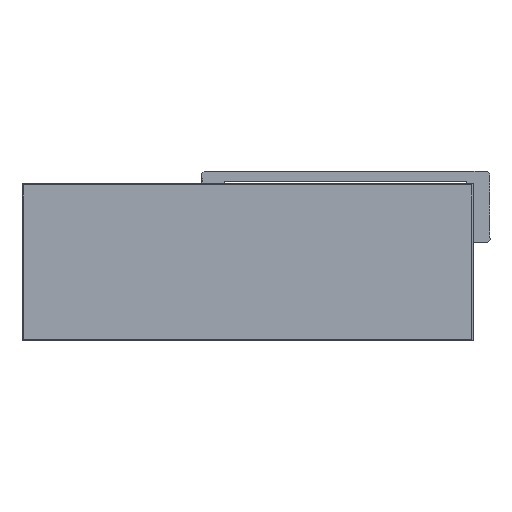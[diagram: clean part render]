
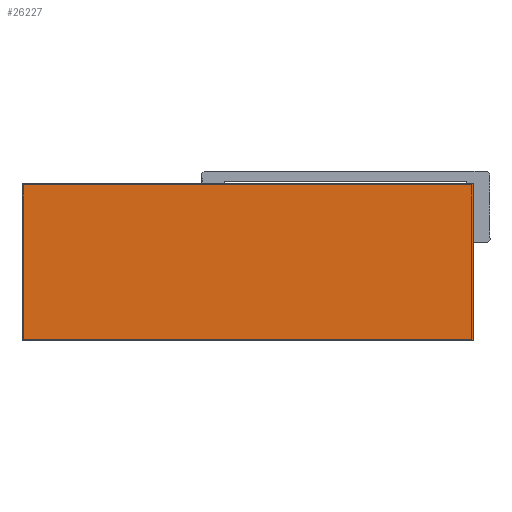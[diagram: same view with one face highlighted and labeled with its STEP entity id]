
A CAD part, top view. The second image highlights one B-rep face of the part: STEP entity #26227.
In plain terms, the highlighted planar face has unit normal (0, 0, 1).
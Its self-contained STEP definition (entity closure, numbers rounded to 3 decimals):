
#264 = AXIS2_PLACEMENT_3D ( 'NONE', #24833, #1585, #17224 ) ;
#459 = VECTOR ( 'NONE', #14248, 1000. ) ;
#595 = LINE ( 'NONE', #20208, #625 ) ;
#625 = VECTOR ( 'NONE', #20181, 1000. ) ;
#1585 = DIRECTION ( 'NONE',  ( 0., 0., -1. ) ) ;
#2285 = ORIENTED_EDGE ( 'NONE', *, *, #29549, .T. ) ;
#2332 = CARTESIAN_POINT ( 'NONE',  ( 313., 109., 70. ) ) ;
#4075 = VERTEX_POINT ( 'NONE', #20498 ) ;
#6234 = ORIENTED_EDGE ( 'NONE', *, *, #29770, .T. ) ;
#6916 = ORIENTED_EDGE ( 'NONE', *, *, #26914, .T. ) ;
#8730 = EDGE_LOOP ( 'NONE', ( #6916, #31924, #2285, #6234 ) ) ;
#8753 = VERTEX_POINT ( 'NONE', #2332 ) ;
#10754 = VERTEX_POINT ( 'NONE', #13856 ) ;
#13756 = FACE_OUTER_BOUND ( 'NONE', #8730, .T. ) ;
#13856 = CARTESIAN_POINT ( 'NONE',  ( 0., 0., 70. ) ) ;
#14248 = DIRECTION ( 'NONE',  ( 0., 1., 0. ) ) ;
#14352 = LINE ( 'NONE', #32813, #459 ) ;
#14507 = EDGE_CURVE ( 'NONE', #10754, #25572, #595, .T. ) ;
#15261 = CARTESIAN_POINT ( 'NONE',  ( 0., 109., 70. ) ) ;
#15949 = LINE ( 'NONE', #15261, #22176 ) ;
#17224 = DIRECTION ( 'NONE',  ( -1., 0., 0. ) ) ;
#19895 = LINE ( 'NONE', #28139, #22385 ) ;
#20181 = DIRECTION ( 'NONE',  ( 1., 0., 0. ) ) ;
#20208 = CARTESIAN_POINT ( 'NONE',  ( 0., 0., 70. ) ) ;
#20498 = CARTESIAN_POINT ( 'NONE',  ( 0., 109., 70. ) ) ;
#22176 = VECTOR ( 'NONE', #25948, 1000. ) ;
#22385 = VECTOR ( 'NONE', #33374, 1000. ) ;
#24833 = CARTESIAN_POINT ( 'NONE',  ( 0., 0., 70. ) ) ;
#25572 = VERTEX_POINT ( 'NONE', #26985 ) ;
#25948 = DIRECTION ( 'NONE',  ( -1., 0., 0. ) ) ;
#26227 = ADVANCED_FACE ( 'NONE', ( #13756 ), #30454, .F. ) ;
#26914 = EDGE_CURVE ( 'NONE', #4075, #10754, #19895, .T. ) ;
#26985 = CARTESIAN_POINT ( 'NONE',  ( 313., 0., 70. ) ) ;
#28139 = CARTESIAN_POINT ( 'NONE',  ( 0., 0., 70. ) ) ;
#29549 = EDGE_CURVE ( 'NONE', #25572, #8753, #14352, .T. ) ;
#29770 = EDGE_CURVE ( 'NONE', #8753, #4075, #15949, .T. ) ;
#30454 = PLANE ( 'NONE',  #264 ) ;
#31924 = ORIENTED_EDGE ( 'NONE', *, *, #14507, .T. ) ;
#32813 = CARTESIAN_POINT ( 'NONE',  ( 313., 0., 70. ) ) ;
#33374 = DIRECTION ( 'NONE',  ( 0., -1., 0. ) ) ;
